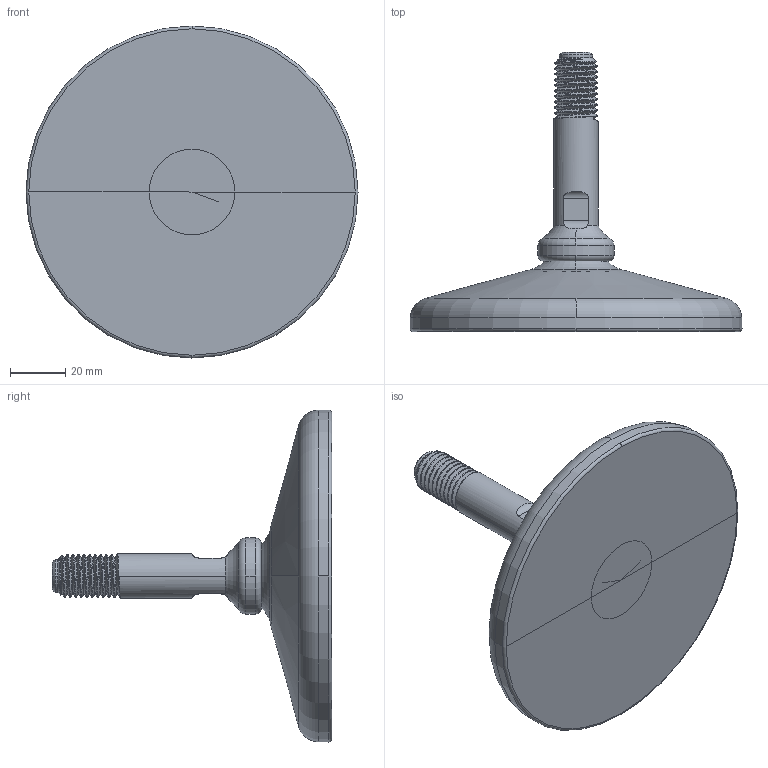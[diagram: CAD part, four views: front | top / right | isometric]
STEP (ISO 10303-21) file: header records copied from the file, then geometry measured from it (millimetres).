
FILE_DESCRIPTION((''),'1');
FILE_NAME('LALAM_M16.step','2024-03-04T09:01:01',(''),(''),'','','');
FILE_SCHEMA(('AUTOMOTIVE_DESIGN { 1 0 10303 214 1 1 1 1 }'));
Length unit declared in the file: metre
Products named in the file (6): LALAM part 01; LALAM part 03; LALAM seal 01; LALAM part 05; LALAM part 06
Assembly tree (5 placements, depth 3):
  LALAM part 01
    LALAM part 01
      LALAM part 03
      LALAM seal 01
      LALAM part 05
      LALAM part 06
Bounding box: 120 x 101 x 120 mm (x, y, z)
Volume: 194919.4 mm3; surface area: 40033.1 mm2
Topology: 4 solids, 4 shells, 114 faces, 261 edges, 162 vertices
Faces by surface type: cylinder 39, torus 22, plane 20, cone 18, bspline 12, sphere 3
Entity records: 8616 total; most frequent: CARTESIAN_POINT 5825, DIRECTION 612, ORIENTED_EDGE 518, AXIS2_PLACEMENT_3D 274, EDGE_CURVE 259, VERTEX_POINT 162, CIRCLE 160, EDGE_LOOP 127
